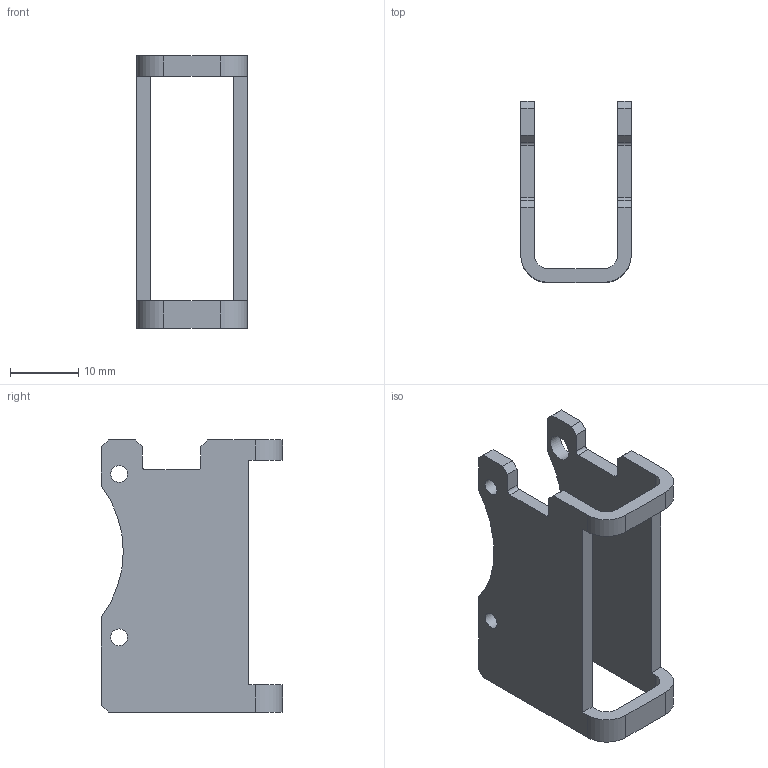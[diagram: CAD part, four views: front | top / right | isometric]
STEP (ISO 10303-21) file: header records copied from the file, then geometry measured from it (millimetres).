
FILE_DESCRIPTION(/* description */ ('Schutzblech'),/* implementation_level */ '2;1');
FILE_NAME(/* name */ 'C:\#Vault-WorkDir\Konstruktions-Dokumente\Projekte\F25\Zubehör\153-01163_MBD F25 STP Sensorschutz.stp',/* time_stamp */ '2014-11-25T10:01:27+01:00',/* author */ ('sandra.stahl'),/* organization */ (''),/* preprocessor_version */ 'ST-DEVELOPER v15.2',/* originating_system */ 'Autodesk Inventor 2014',/* authorisation */ '');
FILE_SCHEMA (('AUTOMOTIVE_DESIGN { 1 0 10303 214 3 1 1 }'));
Length unit declared in the file: millimetre
Products named in the file (1): GH-ENG-0005579
Bounding box: 16.25 x 26.6 x 40 mm (x, y, z)
Volume: 3340.7 mm3; surface area: 4071.3 mm2
Topology: 1 solids, 1 shells, 52 faces, 158 edges, 106 vertices
Faces by surface type: plane 34, cylinder 18
Full cylindrical faces by diameter (mm): 2.459 x2, 3.8 x2
Entity records: 1777 total; most frequent: CARTESIAN_POINT 309, ORIENTED_EDGE 304, DIRECTION 294, EDGE_CURVE 152, LINE 116, VECTOR 116, VERTEX_POINT 104, AXIS2_PLACEMENT_3D 89
